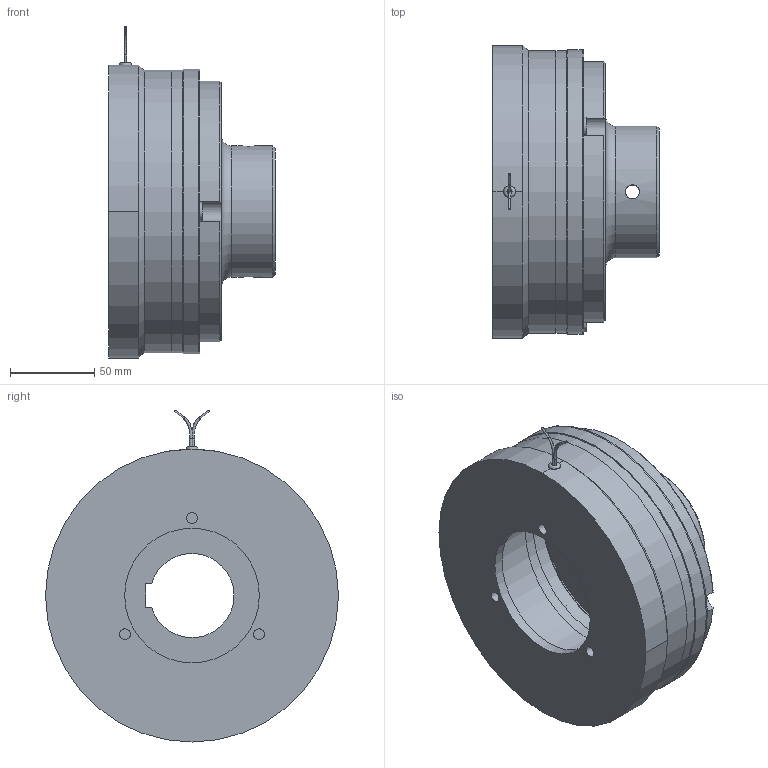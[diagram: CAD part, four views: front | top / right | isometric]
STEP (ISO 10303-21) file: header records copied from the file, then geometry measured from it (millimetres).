
FILE_DESCRIPTION(/* description */ (''),/* implementation_level */ '2;1');
FILE_NAME(/* name */ 'X:\INVENTOR\DISEGNI\08_Freni_Friz_Elettmag_Monodisco\08_28 EMFL_DF\EMFL_DF STEP\08_28_170_12 EMFL170_DF-C-ME@STEP.stp',/* time_stamp */ '2018-04-23T10:46:58+02:00',/* author */ ('stefano'),/* organization */ (''),/* preprocessor_version */ 'ST-DEVELOPER v17',/* originating_system */ 'Autodesk Inventor 2018',/* authorisation */ '');
FILE_SCHEMA (('AUTOMOTIVE_DESIGN { 1 0 10303 214 3 1 1 }'));
Length unit declared in the file: millimetre
Products named in the file (1): 08_28_170_12 EMFL170_DF-C-ME_Substitute_1
Bounding box: 99 x 174 x 197.22 mm (x, y, z)
Volume: 1057603.5 mm3; surface area: 180120.4 mm2
Topology: 2 solids, 2 shells, 260 faces, 778 edges, 524 vertices
Faces by surface type: cylinder 150, plane 80, cone 23, torus 5, bspline 2
Full cylindrical faces by diameter (mm): 1.154 x2, 1.5 x1, 6 x1, 6.5 x3, 8.376 x2, 10 x3, 11 x12, 12 x3, 78 x1, 80 x1, 104 x2, 105 x1, 106 x1, 122 x1, 155 x1, 168 x2, 169 x2
Entity records: 9908 total; most frequent: CARTESIAN_POINT 2074, DIRECTION 1746, ORIENTED_EDGE 1546, EDGE_CURVE 773, AXIS2_PLACEMENT_3D 763, VERTEX_POINT 525, CIRCLE 504, EDGE_LOOP 337
